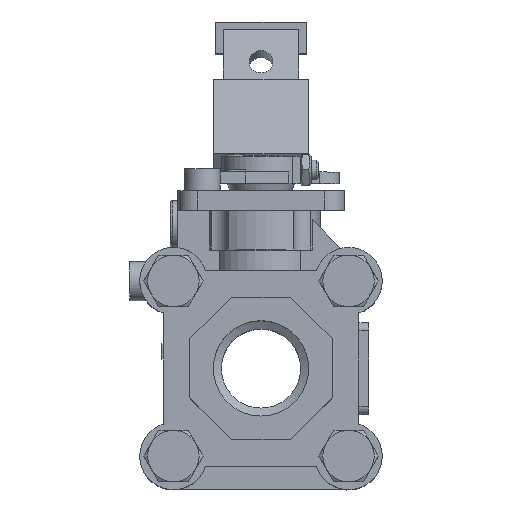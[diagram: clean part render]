
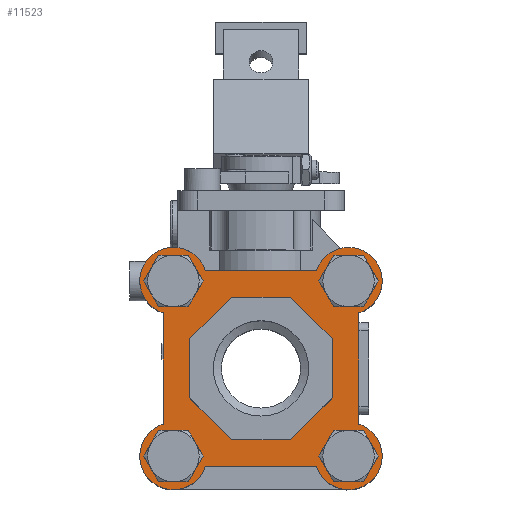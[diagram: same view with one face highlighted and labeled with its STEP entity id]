
A CAD part, top view. The second image highlights one B-rep face of the part: STEP entity #11523.
In plain terms, the highlighted planar face has unit normal (0, 0, 1).
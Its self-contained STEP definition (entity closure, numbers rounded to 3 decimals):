
#377=FACE_BOUND('',#1983,.T.);
#378=FACE_BOUND('',#1984,.T.);
#379=FACE_BOUND('',#1985,.T.);
#380=FACE_BOUND('',#1986,.T.);
#381=FACE_BOUND('',#1987,.T.);
#592=PLANE('',#12351);
#1297=FACE_OUTER_BOUND('',#1982,.T.);
#1982=EDGE_LOOP('',(#9083,#9084,#9085,#9086,#9087,#9088,#9089,#9090));
#1983=EDGE_LOOP('',(#9091,#9092));
#1984=EDGE_LOOP('',(#9093,#9094));
#1985=EDGE_LOOP('',(#9095,#9096));
#1986=EDGE_LOOP('',(#9097,#9098));
#1987=EDGE_LOOP('',(#9099,#9100,#9101,#9102,#9103,#9104,#9105,#9106));
#2618=CIRCLE('',#12352,8.5);
#2619=CIRCLE('',#12353,8.5);
#2620=CIRCLE('',#12354,8.5);
#2621=CIRCLE('',#12355,8.5);
#2622=CIRCLE('',#12356,5.8);
#2623=CIRCLE('',#12357,5.8);
#2624=CIRCLE('',#12358,5.8);
#2625=CIRCLE('',#12359,5.8);
#2626=CIRCLE('',#12360,5.8);
#2627=CIRCLE('',#12361,5.8);
#2628=CIRCLE('',#12362,5.8);
#2629=CIRCLE('',#12363,5.8);
#3387=LINE('',#18279,#4365);
#3388=LINE('',#18283,#4366);
#3389=LINE('',#18287,#4367);
#3390=LINE('',#18290,#4368);
#3391=LINE('',#18309,#4369);
#3392=LINE('',#18311,#4370);
#3393=LINE('',#18313,#4371);
#3394=LINE('',#18315,#4372);
#3395=LINE('',#18317,#4373);
#3396=LINE('',#18319,#4374);
#3397=LINE('',#18321,#4375);
#3398=LINE('',#18322,#4376);
#4365=VECTOR('',#14354,10.);
#4366=VECTOR('',#14357,10.);
#4367=VECTOR('',#14360,10.);
#4368=VECTOR('',#14363,10.);
#4369=VECTOR('',#14380,10.);
#4370=VECTOR('',#14381,10.);
#4371=VECTOR('',#14382,10.);
#4372=VECTOR('',#14383,10.);
#4373=VECTOR('',#14384,10.);
#4374=VECTOR('',#14385,10.);
#4375=VECTOR('',#14386,10.);
#4376=VECTOR('',#14387,10.);
#5387=VERTEX_POINT('',#18275);
#5388=VERTEX_POINT('',#18276);
#5389=VERTEX_POINT('',#18278);
#5390=VERTEX_POINT('',#18280);
#5391=VERTEX_POINT('',#18282);
#5392=VERTEX_POINT('',#18284);
#5393=VERTEX_POINT('',#18286);
#5394=VERTEX_POINT('',#18288);
#5395=VERTEX_POINT('',#18291);
#5396=VERTEX_POINT('',#18292);
#5397=VERTEX_POINT('',#18295);
#5398=VERTEX_POINT('',#18296);
#5399=VERTEX_POINT('',#18299);
#5400=VERTEX_POINT('',#18300);
#5401=VERTEX_POINT('',#18303);
#5402=VERTEX_POINT('',#18304);
#5403=VERTEX_POINT('',#18307);
#5404=VERTEX_POINT('',#18308);
#5405=VERTEX_POINT('',#18310);
#5406=VERTEX_POINT('',#18312);
#5407=VERTEX_POINT('',#18314);
#5408=VERTEX_POINT('',#18316);
#5409=VERTEX_POINT('',#18318);
#5410=VERTEX_POINT('',#18320);
#6742=EDGE_CURVE('',#5387,#5388,#2618,.T.);
#6743=EDGE_CURVE('',#5388,#5389,#3387,.T.);
#6744=EDGE_CURVE('',#5389,#5390,#2619,.T.);
#6745=EDGE_CURVE('',#5390,#5391,#3388,.T.);
#6746=EDGE_CURVE('',#5391,#5392,#2620,.T.);
#6747=EDGE_CURVE('',#5392,#5393,#3389,.T.);
#6748=EDGE_CURVE('',#5393,#5394,#2621,.T.);
#6749=EDGE_CURVE('',#5394,#5387,#3390,.T.);
#6750=EDGE_CURVE('',#5395,#5396,#2622,.T.);
#6751=EDGE_CURVE('',#5396,#5395,#2623,.T.);
#6752=EDGE_CURVE('',#5397,#5398,#2624,.T.);
#6753=EDGE_CURVE('',#5398,#5397,#2625,.T.);
#6754=EDGE_CURVE('',#5399,#5400,#2626,.T.);
#6755=EDGE_CURVE('',#5400,#5399,#2627,.T.);
#6756=EDGE_CURVE('',#5401,#5402,#2628,.T.);
#6757=EDGE_CURVE('',#5402,#5401,#2629,.T.);
#6758=EDGE_CURVE('',#5403,#5404,#3391,.T.);
#6759=EDGE_CURVE('',#5404,#5405,#3392,.T.);
#6760=EDGE_CURVE('',#5405,#5406,#3393,.T.);
#6761=EDGE_CURVE('',#5406,#5407,#3394,.T.);
#6762=EDGE_CURVE('',#5407,#5408,#3395,.T.);
#6763=EDGE_CURVE('',#5408,#5409,#3396,.T.);
#6764=EDGE_CURVE('',#5409,#5410,#3397,.T.);
#6765=EDGE_CURVE('',#5410,#5403,#3398,.T.);
#9083=ORIENTED_EDGE('',*,*,#6742,.T.);
#9084=ORIENTED_EDGE('',*,*,#6743,.T.);
#9085=ORIENTED_EDGE('',*,*,#6744,.T.);
#9086=ORIENTED_EDGE('',*,*,#6745,.T.);
#9087=ORIENTED_EDGE('',*,*,#6746,.T.);
#9088=ORIENTED_EDGE('',*,*,#6747,.T.);
#9089=ORIENTED_EDGE('',*,*,#6748,.T.);
#9090=ORIENTED_EDGE('',*,*,#6749,.T.);
#9091=ORIENTED_EDGE('',*,*,#6750,.T.);
#9092=ORIENTED_EDGE('',*,*,#6751,.T.);
#9093=ORIENTED_EDGE('',*,*,#6752,.T.);
#9094=ORIENTED_EDGE('',*,*,#6753,.T.);
#9095=ORIENTED_EDGE('',*,*,#6754,.T.);
#9096=ORIENTED_EDGE('',*,*,#6755,.T.);
#9097=ORIENTED_EDGE('',*,*,#6756,.T.);
#9098=ORIENTED_EDGE('',*,*,#6757,.T.);
#9099=ORIENTED_EDGE('',*,*,#6758,.T.);
#9100=ORIENTED_EDGE('',*,*,#6759,.T.);
#9101=ORIENTED_EDGE('',*,*,#6760,.T.);
#9102=ORIENTED_EDGE('',*,*,#6761,.T.);
#9103=ORIENTED_EDGE('',*,*,#6762,.T.);
#9104=ORIENTED_EDGE('',*,*,#6763,.T.);
#9105=ORIENTED_EDGE('',*,*,#6764,.T.);
#9106=ORIENTED_EDGE('',*,*,#6765,.T.);
#11523=ADVANCED_FACE('',(#1297,#377,#378,#379,#380,#381),#592,.F.);
#12351=AXIS2_PLACEMENT_3D('',#18274,#14350,#14351);
#12352=AXIS2_PLACEMENT_3D('',#18277,#14352,#14353);
#12353=AXIS2_PLACEMENT_3D('',#18281,#14355,#14356);
#12354=AXIS2_PLACEMENT_3D('',#18285,#14358,#14359);
#12355=AXIS2_PLACEMENT_3D('',#18289,#14361,#14362);
#12356=AXIS2_PLACEMENT_3D('',#18293,#14364,#14365);
#12357=AXIS2_PLACEMENT_3D('',#18294,#14366,#14367);
#12358=AXIS2_PLACEMENT_3D('',#18297,#14368,#14369);
#12359=AXIS2_PLACEMENT_3D('',#18298,#14370,#14371);
#12360=AXIS2_PLACEMENT_3D('',#18301,#14372,#14373);
#12361=AXIS2_PLACEMENT_3D('',#18302,#14374,#14375);
#12362=AXIS2_PLACEMENT_3D('',#18305,#14376,#14377);
#12363=AXIS2_PLACEMENT_3D('',#18306,#14378,#14379);
#14350=DIRECTION('center_axis',(0.,0.,
-1.));
#14351=DIRECTION('ref_axis',(-1.,0.,0.));
#14352=DIRECTION('center_axis',(0.,0.,
1.));
#14353=DIRECTION('ref_axis',(0.952,-0.306,0.));
#14354=DIRECTION('',(-1.,0.,0.));
#14355=DIRECTION('center_axis',(0.,0.,
1.));
#14356=DIRECTION('ref_axis',(0.306,0.952,0.));
#14357=DIRECTION('',(0.,-1.,0.));
#14358=DIRECTION('center_axis',(0.,0.,
1.));
#14359=DIRECTION('ref_axis',(-0.952,0.306,0.));
#14360=DIRECTION('',(1.,0.,0.));
#14361=DIRECTION('center_axis',(0.,0.,
1.));
#14362=DIRECTION('ref_axis',(-0.306,-0.952,0.));
#14363=DIRECTION('',(0.,1.,0.));
#14364=DIRECTION('center_axis',(0.,0.,
-1.));
#14365=DIRECTION('ref_axis',(-0.5,0.866,0.));
#14366=DIRECTION('center_axis',(0.,0.,
-1.));
#14367=DIRECTION('ref_axis',(-0.5,0.866,0.));
#14368=DIRECTION('center_axis',(0.,0.,
-1.));
#14369=DIRECTION('ref_axis',(-0.5,0.866,0.));
#14370=DIRECTION('center_axis',(0.,0.,
-1.));
#14371=DIRECTION('ref_axis',(-0.5,0.866,0.));
#14372=DIRECTION('center_axis',(0.,0.,
-1.));
#14373=DIRECTION('ref_axis',(-0.5,0.866,0.));
#14374=DIRECTION('center_axis',(0.,0.,
-1.));
#14375=DIRECTION('ref_axis',(-0.5,0.866,0.));
#14376=DIRECTION('center_axis',(0.,0.,
-1.));
#14377=DIRECTION('ref_axis',(-0.5,0.866,0.));
#14378=DIRECTION('center_axis',(0.,0.,
-1.));
#14379=DIRECTION('ref_axis',(-0.5,0.866,0.));
#14380=DIRECTION('',(0.,1.,0.));
#14381=DIRECTION('',(0.707,0.707,0.));
#14382=DIRECTION('',(1.,0.,0.));
#14383=DIRECTION('',(0.707,-0.707,0.));
#14384=DIRECTION('',(0.,-1.,0.));
#14385=DIRECTION('',(-0.707,-0.707,0.));
#14386=DIRECTION('',(-1.,0.,0.));
#14387=DIRECTION('',(-0.707,0.707,0.));
#18274=CARTESIAN_POINT('Origin',(0.839,-8.741,27.65));
#18275=CARTESIAN_POINT('',(25.589,5.317,27.65));
#18276=CARTESIAN_POINT('',(14.897,16.009,27.65));
#18277=CARTESIAN_POINT('Origin',(22.989,13.409,27.65));
#18278=CARTESIAN_POINT('',(-13.218,16.009,27.65));
#18279=CARTESIAN_POINT('',(14.897,16.009,27.65));
#18280=CARTESIAN_POINT('',(-23.911,5.317,27.65));
#18281=CARTESIAN_POINT('Origin',(-21.311,13.409,27.65));
#18282=CARTESIAN_POINT('',(-23.911,-22.798,27.65));
#18283=CARTESIAN_POINT('',(-23.911,5.317,27.65));
#18284=CARTESIAN_POINT('',(-13.218,-33.491,27.65));
#18285=CARTESIAN_POINT('Origin',(-21.311,-30.891,27.65));
#18286=CARTESIAN_POINT('',(14.897,-33.491,27.65));
#18287=CARTESIAN_POINT('',(-13.218,-33.491,27.65));
#18288=CARTESIAN_POINT('',(25.589,-22.798,27.65));
#18289=CARTESIAN_POINT('Origin',(22.989,-30.891,27.65));
#18290=CARTESIAN_POINT('',(25.589,-22.798,27.65));
#18291=CARTESIAN_POINT('',(-24.211,-25.868,27.65));
#18292=CARTESIAN_POINT('',(-18.411,-35.914,27.65));
#18293=CARTESIAN_POINT('Origin',(-21.311,-30.891,27.65));
#18294=CARTESIAN_POINT('Origin',(-21.311,-30.891,27.65));
#18295=CARTESIAN_POINT('',(-24.211,18.432,27.65));
#18296=CARTESIAN_POINT('',(-18.411,8.386,27.65));
#18297=CARTESIAN_POINT('Origin',(-21.311,13.409,27.65));
#18298=CARTESIAN_POINT('Origin',(-21.311,13.409,27.65));
#18299=CARTESIAN_POINT('',(20.089,18.432,27.65));
#18300=CARTESIAN_POINT('',(25.889,8.386,27.65));
#18301=CARTESIAN_POINT('Origin',(22.989,13.409,27.65));
#18302=CARTESIAN_POINT('Origin',(22.989,13.409,27.65));
#18303=CARTESIAN_POINT('',(20.089,-25.868,27.65));
#18304=CARTESIAN_POINT('',(25.889,-35.914,27.65));
#18305=CARTESIAN_POINT('Origin',(22.989,-30.891,27.65));
#18306=CARTESIAN_POINT('Origin',(22.989,-30.891,27.65));
#18307=CARTESIAN_POINT('',(-17.161,-16.197,27.65));
#18308=CARTESIAN_POINT('',(-17.161,-1.285,27.65));
#18309=CARTESIAN_POINT('',(-17.161,-5.013,27.65));
#18310=CARTESIAN_POINT('',(-6.617,9.259,27.65));
#18311=CARTESIAN_POINT('',(-9.253,6.623,27.65));
#18312=CARTESIAN_POINT('',(8.295,9.259,27.65));
#18313=CARTESIAN_POINT('',(4.567,9.259,27.65));
#18314=CARTESIAN_POINT('',(18.839,-1.285,27.65));
#18315=CARTESIAN_POINT('',(16.203,1.351,27.65));
#18316=CARTESIAN_POINT('',(18.839,-16.197,27.65));
#18317=CARTESIAN_POINT('',(18.839,-12.469,27.65));
#18318=CARTESIAN_POINT('',(8.295,-26.741,27.65));
#18319=CARTESIAN_POINT('',(10.931,-24.105,27.65));
#18320=CARTESIAN_POINT('',(-6.617,-26.741,27.65));
#18321=CARTESIAN_POINT('',(-2.889,-26.741,27.65));
#18322=CARTESIAN_POINT('',(-14.525,-18.833,27.65));
